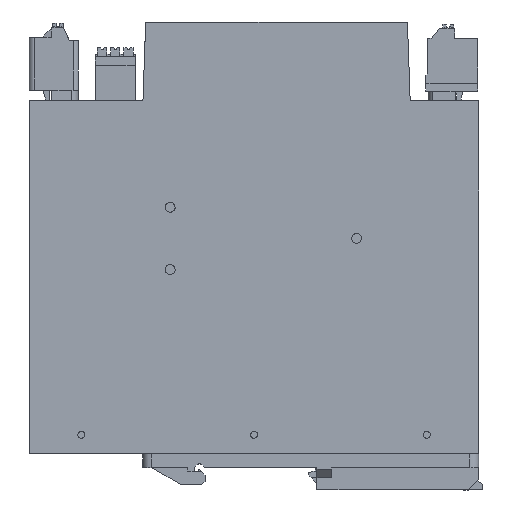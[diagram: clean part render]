
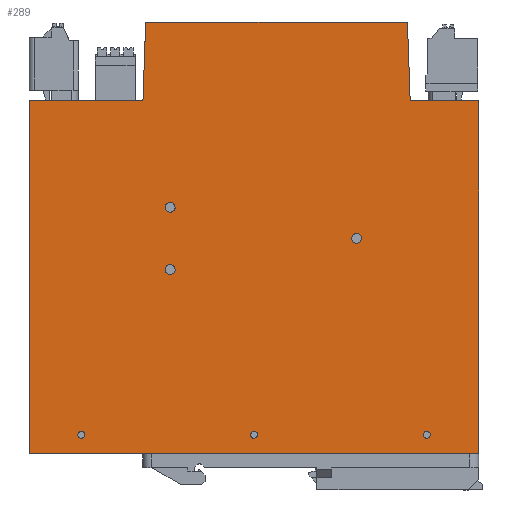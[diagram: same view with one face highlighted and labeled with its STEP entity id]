
A CAD part, left-side view. The second image highlights one B-rep face of the part: STEP entity #289.
In plain terms, the highlighted planar face has unit normal (-1, 0, 0).
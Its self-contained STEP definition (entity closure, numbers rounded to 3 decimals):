
#70=AXIS2_PLACEMENT_3D('Circle Axis2P3D',#68,#69,$) ;
#97=AXIS2_PLACEMENT_3D('Circle Axis2P3D',#95,#96,$) ;
#111=AXIS2_PLACEMENT_3D('Plane Axis2P3D',#108,#109,#110) ;
#197=AXIS2_PLACEMENT_3D('Circle Axis2P3D',#195,#196,$) ;
#206=AXIS2_PLACEMENT_3D('Circle Axis2P3D',#204,#205,$) ;
#215=AXIS2_PLACEMENT_3D('Circle Axis2P3D',#213,#214,$) ;
#224=AXIS2_PLACEMENT_3D('Circle Axis2P3D',#222,#223,$) ;
#237=AXIS2_PLACEMENT_3D('Circle Axis2P3D',#235,#236,$) ;
#246=AXIS2_PLACEMENT_3D('Circle Axis2P3D',#244,#245,$) ;
#255=AXIS2_PLACEMENT_3D('Circle Axis2P3D',#253,#254,$) ;
#264=AXIS2_PLACEMENT_3D('Circle Axis2P3D',#262,#263,$) ;
#273=AXIS2_PLACEMENT_3D('Circle Axis2P3D',#271,#272,$) ;
#282=AXIS2_PLACEMENT_3D('Circle Axis2P3D',#280,#281,$) ;
#68=CARTESIAN_POINT('Axis2P3D Location',(0.,36.5,72.85)) ;
#72=CARTESIAN_POINT('Vertex',(0.,35.817,74.101)) ;
#74=CARTESIAN_POINT('Vertex',(0.,37.183,71.599)) ;
#95=CARTESIAN_POINT('Axis2P3D Location',(0.,36.5,72.85)) ;
#108=CARTESIAN_POINT('Axis2P3D Location',(0.,66.2,72.4)) ;
#113=CARTESIAN_POINT('Line Origine',(0.,97.989,124.05)) ;
#117=CARTESIAN_POINT('Vertex',(0.,98.386,112.7)) ;
#119=CARTESIAN_POINT('Vertex',(0.,97.593,135.4)) ;
#122=CARTESIAN_POINT('Line Origine',(0.,114.793,112.7)) ;
#126=CARTESIAN_POINT('Vertex',(0.,131.2,112.7)) ;
#129=CARTESIAN_POINT('Line Origine',(0.,131.2,61.6)) ;
#133=CARTESIAN_POINT('Vertex',(0.,131.2,10.5)) ;
#136=CARTESIAN_POINT('Line Origine',(0.,66.2,10.5)) ;
#140=CARTESIAN_POINT('Vertex',(0.,1.2,10.5)) ;
#143=CARTESIAN_POINT('Line Origine',(0.,1.2,61.6)) ;
#147=CARTESIAN_POINT('Vertex',(0.,1.2,112.7)) ;
#150=CARTESIAN_POINT('Line Origine',(0.,11.107,112.7)) ;
#154=CARTESIAN_POINT('Vertex',(0.,21.014,112.7)) ;
#157=CARTESIAN_POINT('Line Origine',(0.,21.412,124.1)) ;
#161=CARTESIAN_POINT('Vertex',(0.,21.81,135.5)) ;
#164=CARTESIAN_POINT('Line Origine',(0.,59.7,135.5)) ;
#168=CARTESIAN_POINT('Vertex',(0.,97.59,135.5)) ;
#171=CARTESIAN_POINT('Line Origine',(0.,97.59,135.45)) ;
#175=CARTESIAN_POINT('Vertex',(0.,97.59,135.4)) ;
#178=CARTESIAN_POINT('Line Origine',(0.,97.591,135.4)) ;
#195=CARTESIAN_POINT('Axis2P3D Location',(0.,16.2,16.)) ;
#199=CARTESIAN_POINT('Vertex',(0.,16.683,15.117)) ;
#201=CARTESIAN_POINT('Vertex',(0.,15.717,16.883)) ;
#204=CARTESIAN_POINT('Axis2P3D Location',(0.,16.2,16.)) ;
#213=CARTESIAN_POINT('Axis2P3D Location',(0.,116.2,16.)) ;
#217=CARTESIAN_POINT('Vertex',(0.,115.717,16.883)) ;
#219=CARTESIAN_POINT('Vertex',(0.,116.683,15.117)) ;
#222=CARTESIAN_POINT('Axis2P3D Location',(0.,116.2,16.)) ;
#235=CARTESIAN_POINT('Axis2P3D Location',(0.,90.5,63.85)) ;
#239=CARTESIAN_POINT('Vertex',(0.,91.183,62.599)) ;
#241=CARTESIAN_POINT('Vertex',(0.,89.817,65.101)) ;
#244=CARTESIAN_POINT('Axis2P3D Location',(0.,90.5,63.85)) ;
#253=CARTESIAN_POINT('Axis2P3D Location',(0.,66.2,16.)) ;
#257=CARTESIAN_POINT('Vertex',(0.,66.683,15.117)) ;
#259=CARTESIAN_POINT('Vertex',(0.,65.717,16.883)) ;
#262=CARTESIAN_POINT('Axis2P3D Location',(0.,66.2,16.)) ;
#271=CARTESIAN_POINT('Axis2P3D Location',(0.,90.5,81.85)) ;
#275=CARTESIAN_POINT('Vertex',(0.,89.817,83.101)) ;
#277=CARTESIAN_POINT('Vertex',(0.,91.183,80.599)) ;
#280=CARTESIAN_POINT('Axis2P3D Location',(0.,90.5,81.85)) ;
#69=DIRECTION('Axis2P3D Direction',(1.,0.,0.)) ;
#96=DIRECTION('Axis2P3D Direction',(1.,0.,0.)) ;
#109=DIRECTION('Axis2P3D Direction',(1.,-0.,0.)) ;
#110=DIRECTION('Axis2P3D XDirection',(0.,0.,-1.)) ;
#114=DIRECTION('Vector Direction',(0.,-0.035,0.999)) ;
#123=DIRECTION('Vector Direction',(0.,-1.,0.)) ;
#130=DIRECTION('Vector Direction',(0.,0.,1.)) ;
#137=DIRECTION('Vector Direction',(0.,-1.,0.)) ;
#144=DIRECTION('Vector Direction',(0.,0.,-1.)) ;
#151=DIRECTION('Vector Direction',(0.,-1.,0.)) ;
#158=DIRECTION('Vector Direction',(0.,-0.035,-0.999)) ;
#165=DIRECTION('Vector Direction',(0.,-1.,0.)) ;
#172=DIRECTION('Vector Direction',(0.,0.,-1.)) ;
#179=DIRECTION('Vector Direction',(0.,1.,0.)) ;
#196=DIRECTION('Axis2P3D Direction',(1.,-0.,0.)) ;
#205=DIRECTION('Axis2P3D Direction',(1.,-0.,0.)) ;
#214=DIRECTION('Axis2P3D Direction',(1.,-0.,0.)) ;
#223=DIRECTION('Axis2P3D Direction',(1.,-0.,0.)) ;
#236=DIRECTION('Axis2P3D Direction',(1.,-0.,0.)) ;
#245=DIRECTION('Axis2P3D Direction',(1.,-0.,0.)) ;
#254=DIRECTION('Axis2P3D Direction',(1.,-0.,0.)) ;
#263=DIRECTION('Axis2P3D Direction',(1.,-0.,0.)) ;
#272=DIRECTION('Axis2P3D Direction',(1.,-0.,0.)) ;
#281=DIRECTION('Axis2P3D Direction',(1.,-0.,0.)) ;
#115=VECTOR('Line Direction',#114,1.) ;
#124=VECTOR('Line Direction',#123,1.) ;
#131=VECTOR('Line Direction',#130,1.) ;
#138=VECTOR('Line Direction',#137,1.) ;
#145=VECTOR('Line Direction',#144,1.) ;
#152=VECTOR('Line Direction',#151,1.) ;
#159=VECTOR('Line Direction',#158,1.) ;
#166=VECTOR('Line Direction',#165,1.) ;
#173=VECTOR('Line Direction',#172,1.) ;
#180=VECTOR('Line Direction',#179,1.) ;
#184=ORIENTED_EDGE('',*,*,#121,.F.) ;
#185=ORIENTED_EDGE('',*,*,#128,.F.) ;
#186=ORIENTED_EDGE('',*,*,#135,.F.) ;
#187=ORIENTED_EDGE('',*,*,#142,.T.) ;
#188=ORIENTED_EDGE('',*,*,#149,.F.) ;
#189=ORIENTED_EDGE('',*,*,#156,.F.) ;
#190=ORIENTED_EDGE('',*,*,#163,.F.) ;
#191=ORIENTED_EDGE('',*,*,#170,.F.) ;
#192=ORIENTED_EDGE('',*,*,#177,.T.) ;
#193=ORIENTED_EDGE('',*,*,#182,.F.) ;
#210=ORIENTED_EDGE('',*,*,#203,.T.) ;
#211=ORIENTED_EDGE('',*,*,#208,.T.) ;
#228=ORIENTED_EDGE('',*,*,#221,.T.) ;
#229=ORIENTED_EDGE('',*,*,#226,.T.) ;
#232=ORIENTED_EDGE('',*,*,#76,.T.) ;
#233=ORIENTED_EDGE('',*,*,#99,.T.) ;
#250=ORIENTED_EDGE('',*,*,#243,.T.) ;
#251=ORIENTED_EDGE('',*,*,#248,.T.) ;
#268=ORIENTED_EDGE('',*,*,#261,.T.) ;
#269=ORIENTED_EDGE('',*,*,#266,.T.) ;
#286=ORIENTED_EDGE('',*,*,#279,.T.) ;
#287=ORIENTED_EDGE('',*,*,#284,.T.) ;
#212=FACE_BOUND('',#209,.T.) ;
#230=FACE_BOUND('',#227,.T.) ;
#234=FACE_BOUND('',#231,.T.) ;
#252=FACE_BOUND('',#249,.T.) ;
#270=FACE_BOUND('',#267,.T.) ;
#288=FACE_BOUND('',#285,.T.) ;
#289=ADVANCED_FACE('STROMVERSORGUNG',(#194,#212,#230,#234,#252,#270,#288),#112,.F.) ;
#71=CIRCLE('generated circle',#70,1.425) ;
#98=CIRCLE('generated circle',#97,1.425) ;
#198=CIRCLE('generated circle',#197,1.007) ;
#207=CIRCLE('generated circle',#206,1.007) ;
#216=CIRCLE('generated circle',#215,1.007) ;
#225=CIRCLE('generated circle',#224,1.007) ;
#238=CIRCLE('generated circle',#237,1.425) ;
#247=CIRCLE('generated circle',#246,1.425) ;
#256=CIRCLE('generated circle',#255,1.007) ;
#265=CIRCLE('generated circle',#264,1.007) ;
#274=CIRCLE('generated circle',#273,1.425) ;
#283=CIRCLE('generated circle',#282,1.425) ;
#76=EDGE_CURVE('',#73,#75,#71,.T.) ;
#99=EDGE_CURVE('',#75,#73,#98,.T.) ;
#121=EDGE_CURVE('',#118,#120,#116,.T.) ;
#128=EDGE_CURVE('',#127,#118,#125,.T.) ;
#135=EDGE_CURVE('',#134,#127,#132,.T.) ;
#142=EDGE_CURVE('',#134,#141,#139,.T.) ;
#149=EDGE_CURVE('',#148,#141,#146,.T.) ;
#156=EDGE_CURVE('',#155,#148,#153,.T.) ;
#163=EDGE_CURVE('',#162,#155,#160,.T.) ;
#170=EDGE_CURVE('',#169,#162,#167,.T.) ;
#177=EDGE_CURVE('',#169,#176,#174,.T.) ;
#182=EDGE_CURVE('',#120,#176,#181,.F.) ;
#203=EDGE_CURVE('',#200,#202,#198,.T.) ;
#208=EDGE_CURVE('',#202,#200,#207,.T.) ;
#221=EDGE_CURVE('',#218,#220,#216,.T.) ;
#226=EDGE_CURVE('',#220,#218,#225,.T.) ;
#243=EDGE_CURVE('',#240,#242,#238,.T.) ;
#248=EDGE_CURVE('',#242,#240,#247,.T.) ;
#261=EDGE_CURVE('',#258,#260,#256,.T.) ;
#266=EDGE_CURVE('',#260,#258,#265,.T.) ;
#279=EDGE_CURVE('',#276,#278,#274,.T.) ;
#284=EDGE_CURVE('',#278,#276,#283,.T.) ;
#183=EDGE_LOOP('',(#184,#185,#186,#187,#188,#189,#190,#191,#192,#193)) ;
#209=EDGE_LOOP('',(#210,#211)) ;
#227=EDGE_LOOP('',(#228,#229)) ;
#231=EDGE_LOOP('',(#232,#233)) ;
#249=EDGE_LOOP('',(#250,#251)) ;
#267=EDGE_LOOP('',(#268,#269)) ;
#285=EDGE_LOOP('',(#286,#287)) ;
#194=FACE_OUTER_BOUND('',#183,.T.) ;
#116=LINE('Line',#113,#115) ;
#125=LINE('Line',#122,#124) ;
#132=LINE('Line',#129,#131) ;
#139=LINE('Line',#136,#138) ;
#146=LINE('Line',#143,#145) ;
#153=LINE('Line',#150,#152) ;
#160=LINE('Line',#157,#159) ;
#167=LINE('Line',#164,#166) ;
#174=LINE('Line',#171,#173) ;
#181=LINE('Line',#178,#180) ;
#112=PLANE('',#111) ;
#73=VERTEX_POINT('',#72) ;
#75=VERTEX_POINT('',#74) ;
#118=VERTEX_POINT('',#117) ;
#120=VERTEX_POINT('',#119) ;
#127=VERTEX_POINT('',#126) ;
#134=VERTEX_POINT('',#133) ;
#141=VERTEX_POINT('',#140) ;
#148=VERTEX_POINT('',#147) ;
#155=VERTEX_POINT('',#154) ;
#162=VERTEX_POINT('',#161) ;
#169=VERTEX_POINT('',#168) ;
#176=VERTEX_POINT('',#175) ;
#200=VERTEX_POINT('',#199) ;
#202=VERTEX_POINT('',#201) ;
#218=VERTEX_POINT('',#217) ;
#220=VERTEX_POINT('',#219) ;
#240=VERTEX_POINT('',#239) ;
#242=VERTEX_POINT('',#241) ;
#258=VERTEX_POINT('',#257) ;
#260=VERTEX_POINT('',#259) ;
#276=VERTEX_POINT('',#275) ;
#278=VERTEX_POINT('',#277) ;
